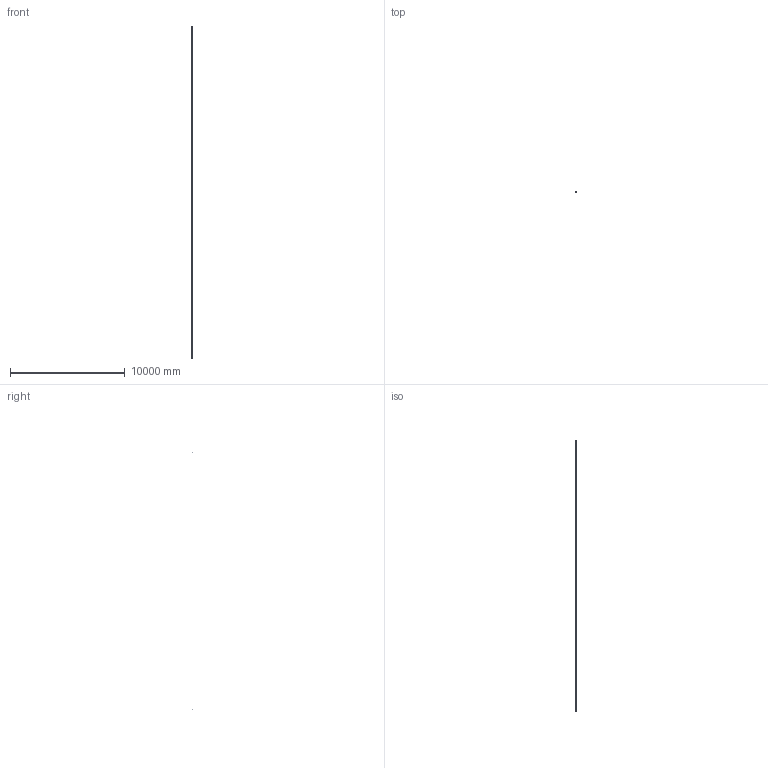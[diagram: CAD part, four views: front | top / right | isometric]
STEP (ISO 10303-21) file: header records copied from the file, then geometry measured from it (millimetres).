
FILE_DESCRIPTION(('Creo Elements/Direct Modeling STEP Export'),'2;1');
FILE_NAME('F-286.stp','2011-11-18T13:04:02',(''),(''),'Creo Elements/Direct Modeling STEP processor for AP214 (Solid Model)','Creo Elements/Direct Modeling 17.0C 05-Feb-2011 (C) Parametric Technology GmbH','');
FILE_SCHEMA(('AUTOMOTIVE_DESIGN { 1 0 10303 214 1 1 1 1 }'));
Length unit declared in the file: millimetre
Products named in the file (5): Modulos_intermedio_(FL-14).13; Modulo_izq_(K); CABEZA; Modulo_der_(20E); F-286
Assembly tree (21 placements, depth 2):
  F-286
    Modulos_intermedio_(FL-14).13  x18
    Modulo_der_(20E)
    CABEZA
    Modulo_izq_(K)
Bounding box: 51.5 x 87.95 x 28935.6 mm (x, y, z)
Volume: 73631050.6 mm3; surface area: 8434408.8 mm2
Topology: 22 solids, 185 shells, 11712 faces, 32719 edges, 20839 vertices
Faces by surface type: cylinder 5143, plane 4301, cone 932, torus 615, bspline 521, extrusion 190, sphere 10
Entity records: 106698 total; most frequent: CARTESIAN_POINT 33800, ORIENTED_EDGE 15660, DIRECTION 13491, EDGE_CURVE 7824, VERTEX_POINT 5061, AXIS2_PLACEMENT_3D 4757, VECTOR 3977, LINE 3957
